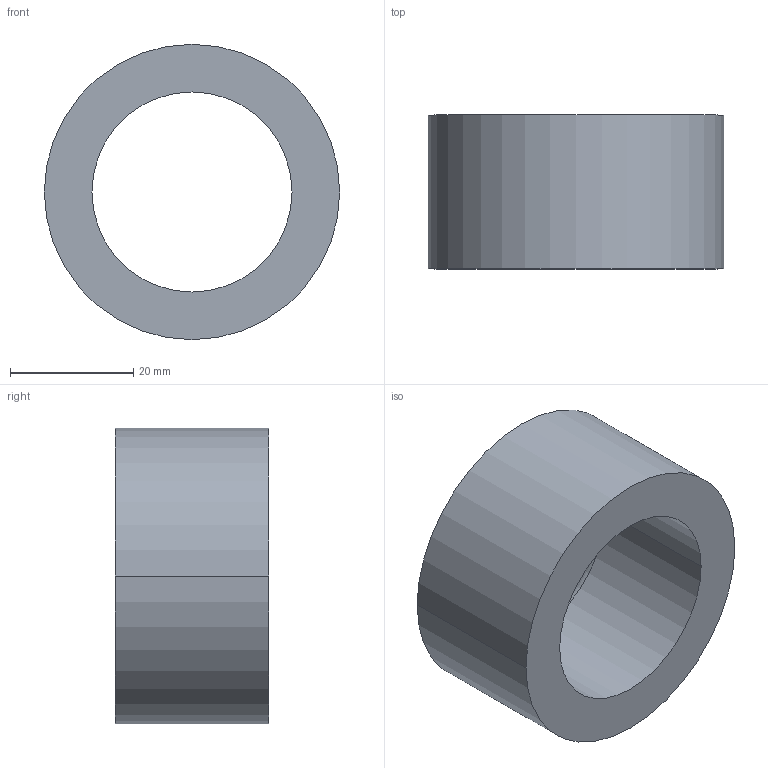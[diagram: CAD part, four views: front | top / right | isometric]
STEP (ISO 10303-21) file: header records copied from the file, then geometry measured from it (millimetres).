
FILE_DESCRIPTION (( 'STEP AP203' ), '1' );
FILE_NAME ('30800.WPP48J32.5.step', '2019-01-23T22:52:24', ( '' ), ( '' ), 'SwSTEP 2.0', 'SolidWorks 2017', '' );
FILE_SCHEMA (( 'CONFIG_CONTROL_DESIGN' ));
Length unit declared in the file: millimetre
Products named in the file (1): 30800.WPP48J32.5
Bounding box: 48 x 25 x 48 mm (x, y, z)
Volume: 24294.2 mm3; surface area: 8155 mm2
Topology: 1 solids, 1 shells, 8 faces, 16 edges, 10 vertices
Faces by surface type: cylinder 4, torus 2, plane 2
Entity records: 297 total; most frequent: DIRECTION 46, CARTESIAN_POINT 35, ORIENTED_EDGE 32, AXIS2_PLACEMENT_3D 21, EDGE_CURVE 16, CIRCLE 12, VERTEX_POINT 10, EDGE_LOOP 10
